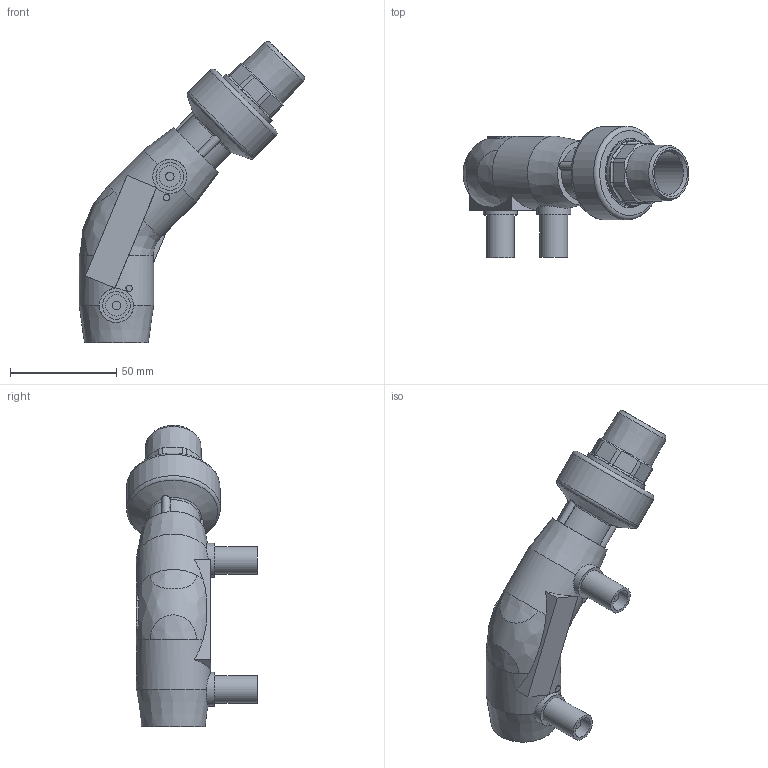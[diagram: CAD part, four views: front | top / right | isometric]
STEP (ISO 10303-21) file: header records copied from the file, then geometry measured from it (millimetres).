
FILE_DESCRIPTION(/* description */ ('Unknown'),/* implementation_level */ '2;1');
FILE_NAME(/* name */ 'GE4TMP025C',/* time_stamp */ '2021-03-02T16:00:15+01:00',/* author */ ('Unknown'),/* organization */ ('Unknown'),/* preprocessor_version */ 'ST-DEVELOPER v16.7',/* originating_system */ 'Solid Edge',/* authorisation */ 'Unknown');
FILE_SCHEMA (('AUTOMOTIVE_DESIGN {1 0 10303 214 3 1 1}'));
Length unit declared in the file: millimetre
Products named in the file (5): GE4TMP025C; GE4P025C; RTOMP025C; Parte PE 025; IOM025C
Assembly tree (4 placements, depth 3):
  GE4TMP025C
    GE4P025C
    RTOMP025C
      Parte PE 025
      IOM025C
Bounding box: 106.07 x 61.45 x 141.57 mm (x, y, z)
Volume: 94162.6 mm3; surface area: 47253.9 mm2
Topology: 3 solids, 3 shells, 510 faces, 1343 edges, 864 vertices
Faces by surface type: cylinder 206, plane 110, cone 88, bspline 68, torus 38
Full cylindrical faces by diameter (mm): 3 x2, 4 x2, 10 x2, 13 x2, 16 x2, 19 x1, 20 x1, 22 x2, 23.5 x2, 25 x3, 26.3 x2, 26.5 x2, 31 x1, 33 x2, 35 x2, 36 x4, 44 x1
Entity records: 20363 total; most frequent: CARTESIAN_POINT 7489, ORIENTED_EDGE 2546, DIRECTION 2006, EDGE_CURVE 1273, AXIS2_PLACEMENT_3D 896, VERTEX_POINT 848, B_SPLINE_CURVE_WITH_KNOTS 608, EDGE_LOOP 595
